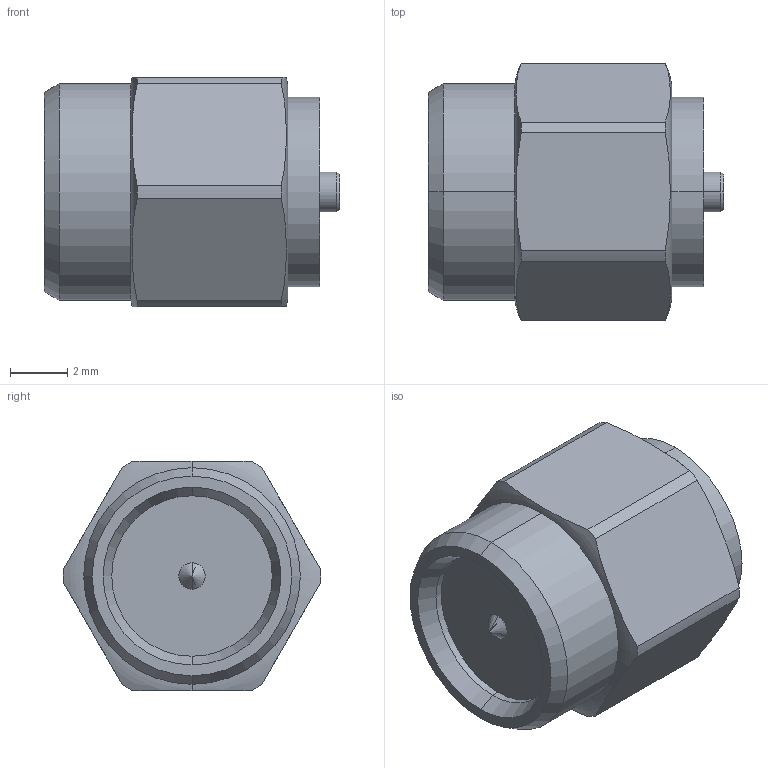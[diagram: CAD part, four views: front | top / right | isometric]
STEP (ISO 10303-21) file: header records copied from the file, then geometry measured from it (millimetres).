
FILE_DESCRIPTION (( 'STEP AP203' ), '1' );
FILE_NAME ('90285-001 MHF III SMA ADAPTOR.STEP', '2020-03-19T06:50:32', ( '' ), ( '' ), 'SwSTEP 2.0', 'SolidWorks 2017', '' );
FILE_SCHEMA (( 'CONFIG_CONTROL_DESIGN' ));
Length unit declared in the file: millimetre
Products named in the file (1): 90285-001 MHF III SMA ADAPTOR
Bounding box: 10.3 x 9 x 8 mm (x, y, z)
Volume: 451 mm3; surface area: 359.1 mm2
Topology: 1 solids, 1 shells, 42 faces, 98 edges, 61 vertices
Faces by surface type: cylinder 16, plane 12, cone 10, torus 4
Entity records: 1353 total; most frequent: CARTESIAN_POINT 312, DIRECTION 214, ORIENTED_EDGE 192, EDGE_CURVE 96, AXIS2_PLACEMENT_3D 91, VERTEX_POINT 61, CIRCLE 48, EDGE_LOOP 47
